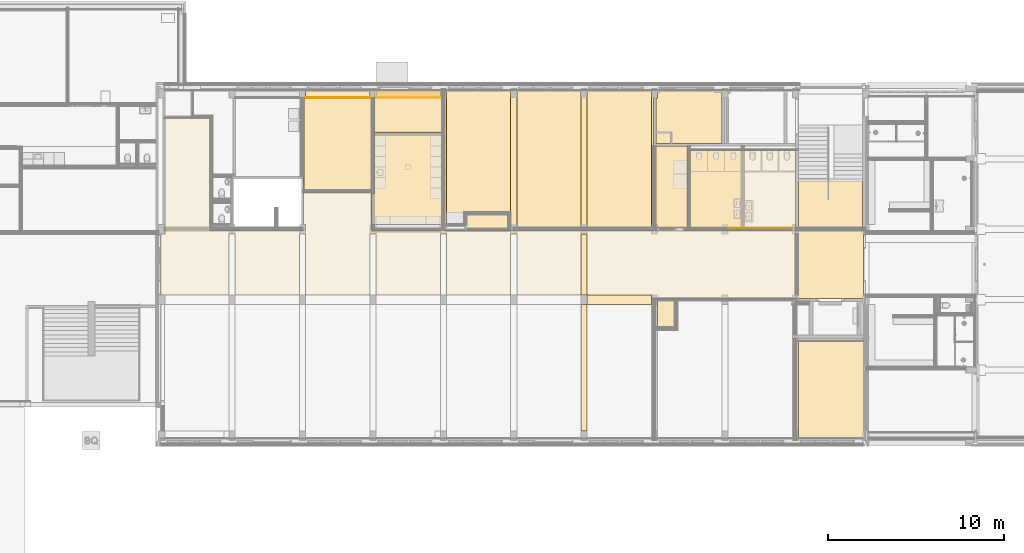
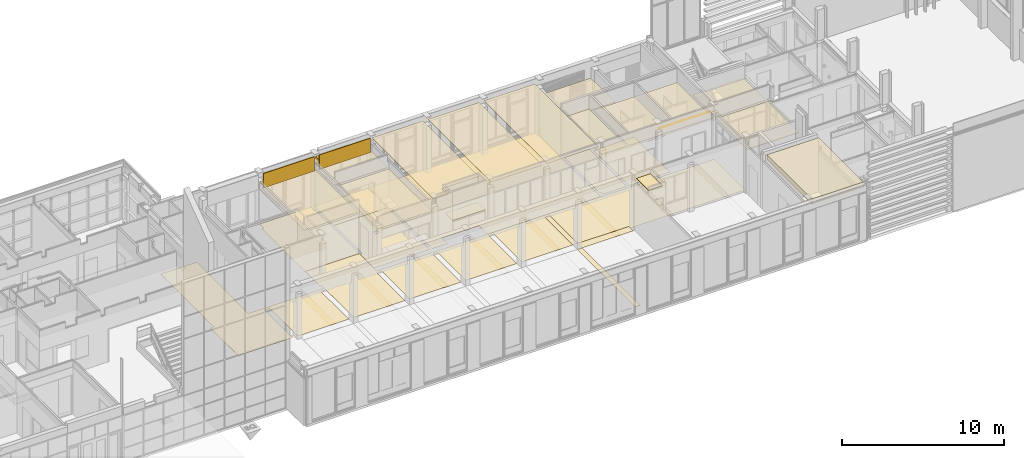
# One storey, part 88 of 109: 29 coverings, 1 opening.
"""IFC2X3 building model written with IfcOpenShell, lengths in millimetres."""

from ifc_helpers import new_model, entity, si_unit, converted_unit, derived_unit, money_unit, direction, frame, origin_with_axes, place, context, subcontext, project, spatial, faceted_brep, material, type_object, element, save


model = new_model("IFC2X3")

# Units and contexts
model_context = context("Model", 3, precision=0.01, world=origin_with_axes(), true_north=direction((0.0, 1.0)))
body_context = subcontext(model_context, "Body", "Model", "MODEL_VIEW")
ifc_project = project(units=[si_unit("LENGTHUNIT", "METRE", prefix="MILLI"), si_unit("AREAUNIT", "SQUARE_METRE"), si_unit("VOLUMEUNIT", "CUBIC_METRE"), converted_unit("PLANEANGLEUNIT", "DEGREE", entity("IfcPlaneAngleMeasure", 0.0174532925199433), si_unit("PLANEANGLEUNIT", "RADIAN"), dimensions=[0, 0, 0, 0, 0, 0, 0]), money_unit("EUR"), converted_unit("TIMEUNIT", "Year", entity("IfcTimeMeasure", 31557600.0), si_unit("TIMEUNIT", "SECOND"), dimensions=[0, 0, 1, 0, 0, 0, 0]), si_unit("MASSUNIT", "GRAM", prefix="KILO"), si_unit("THERMODYNAMICTEMPERATUREUNIT", "DEGREE_CELSIUS"), si_unit("LUMINOUSINTENSITYUNIT", "LUMEN"), si_unit("ENERGYUNIT", "JOULE", prefix="MEGA"), derived_unit("THERMALCONDUCTANCEUNIT", [(si_unit("POWERUNIT", "WATT"), 1), (si_unit("LENGTHUNIT", "METRE"), -1), (si_unit("THERMODYNAMICTEMPERATUREUNIT", "KELVIN"), -1)]), derived_unit("SPECIFICHEATCAPACITYUNIT", [(si_unit("ENERGYUNIT", "JOULE"), 1), (si_unit("MASSUNIT", "GRAM", prefix="KILO"), -1), (si_unit("THERMODYNAMICTEMPERATUREUNIT", "KELVIN"), -1)]), derived_unit("MASSDENSITYUNIT", [(si_unit("MASSUNIT", "GRAM", prefix="KILO"), 1), (si_unit("VOLUMEUNIT", "CUBIC_METRE"), -1)])], contexts=[model_context])

# Site, building, storey
site_placement = place(None, origin_with_axes())
site = spatial("IfcSite", under=ifc_project, at=site_placement, Name="<site naam>", CompositionType="ELEMENT")
building_placement = place(site_placement, origin_with_axes())
building = spatial("IfcBuilding", under=site, at=building_placement, Name="<Naam gebouw>", CompositionType="ELEMENT")
storey_placement = place(building_placement, origin_with_axes())
storey = spatial("IfcBuildingStorey", under=building, at=storey_placement, Name="00 Begane grond", CompositionType="ELEMENT", Elevation=0.0)

# Covering
ifc_material_1 = material(Name="Gietvloer type 02a")
covering_type_1 = type_object("IfcCoveringType", Name="VA-02a 3", PredefinedType="CEILING")
covering_1_placement = place(storey_placement, frame((42025.00000000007, 16474.94979658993, 0.0), z_axis=(0.0, 0.0, 1.0), x_axis=(1.0, 0.0, 0.0)))
element("IfcCovering", 1, at=covering_1_placement, inside=storey, type_object=covering_type_1, material=ifc_material_1, Name="43_Vloer_VA-02a", PredefinedType="CEILING", context=body_context, shape_type="Brep", body=[
    faceted_brep([(0.0, 0.0, 3.0), (0.0, 0.0, 0.0), (0.0, -4399.287086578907, 0.0), (0.0, -4399.287086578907, 3.0), (2920.000048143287, 0.0, 3.0), (2920.000048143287, 0.0, 0.0), (2920.000048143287, -4399.287086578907, 0.0), (2920.000048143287, -4399.287086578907, 3.0)], [[[0, 1, 2, 3]], [[4, 5, 1, 0]], [[2, 1, 5, 6]], [[3, 2, 6, 7]], [[4, 0, 3, 7]], [[7, 6, 5, 4]]]),
])

# Covering, opening
ifc_material_2 = material(Name="Gietvloer HACCP type 09")
covering_type_2 = type_object("IfcCoveringType", Name="VA-09 3", PredefinedType="CEILING")
covering_2_placement = place(storey_placement, frame((24075.00000000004, 19883.99999999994, 0.0), z_axis=(0.0, 0.0, 1.0), x_axis=(1.0, 0.0, 0.0)))
covering_2 = element("IfcCovering", 2, at=covering_2_placement, inside=storey, type_object=covering_type_2, material=ifc_material_2, Name="43_Vloer_VA-09", PredefinedType="CEILING", context=body_context, shape_type="Brep", body=[
    faceted_brep([(0.0, 0.0, 3.0), (0.0, 0.0, 0.0), (0.0, -5855.163192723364, 0.0), (0.0, -5855.163192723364, 3.0), (3849.999971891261, 0.0, 3.0), (3849.999971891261, 0.0, 0.0), (3850.00008665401, -7608.999999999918, 0.0), (-150.0000338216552, -7608.999999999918, 0.0), (-149.9999895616, -5855.163188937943, 0.0), (-149.9999895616, -5855.163188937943, 3.0), (-150.0000338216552, -7608.999999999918, 3.0), (3850.00008665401, -7608.999999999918, 3.0)], [[[0, 1, 2, 3]], [[4, 5, 1, 0]], [[2, 1, 5, 6, 7, 8]], [[3, 2, 8, 9]], [[4, 0, 3, 9, 10, 11]], [[11, 6, 5, 4]], [[10, 7, 6, 11]], [[9, 8, 7, 10]]]),
])
opening_placement = place(covering_2_placement, frame((-24075.00000000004, -19883.99999999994, 0.0), z_axis=(0.0, 0.0, 1.0), x_axis=(1.0, 0.0, 0.0)))
element("IfcOpeningElement", 3, at=opening_placement, cuts=covering_2, Name="43_Opening_", context=body_context, shape_type="Brep", body=[
    faceted_brep([(25843.59936336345, 15404.00000000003, -3.0), (26093.59936336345, 15404.00000000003, -3.0), (26093.59936336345, 15404.00000000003, 6.0), (25843.59936336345, 15404.00000000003, 6.0), (25843.59936336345, 15654.00000000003, -3.0), (26093.59936336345, 15654.00000000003, -3.0), (26093.59936336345, 15654.00000000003, 6.0), (25843.59936336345, 15654.00000000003, 6.0)], [[[0, 1, 2, 3]], [[0, 4, 5, 1]], [[1, 5, 6, 2]], [[3, 2, 6, 7]], [[4, 0, 3, 7]], [[5, 4, 7, 6]]]),
])

# Coverings
ifc_material_3 = material(Name="systeemplafond 600*600 kleur wit")
covering_type_3 = type_object("IfcCoveringType", Name="PA-01a 40", PredefinedType="CEILING")
covering_3_placement = place(storey_placement, frame((41159.00007376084, 7925.000028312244, 3700.0), z_axis=(0.0, 0.0, 1.0), x_axis=(1.0, 0.0, 0.0)))
element("IfcCovering", 4, at=covering_3_placement, inside=storey, type_object=covering_type_3, material=ifc_material_3, Name="45_Vloer_PA-01a", PredefinedType="CEILING", context=body_context, shape_type="Brep", body=[
    faceted_brep([(0.0, 0.0, 40.00000000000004), (0.0, 0.0, 0.0), (-984.0000737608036, 0.0, 0.0), (-984.0000737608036, 0.0, 40.00000000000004), (0.0, -1499.999991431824, 40.00000000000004), (0.0, -1499.999991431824, 0.0), (-984.0000737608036, -1499.999991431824, 0.0), (-984.0000737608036, -1499.999991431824, 40.00000000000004)], [[[0, 1, 2, 3]], [[4, 5, 1, 0]], [[2, 1, 5, 6]], [[3, 2, 6, 7]], [[4, 0, 3, 7]], [[7, 6, 5, 4]]]),
])
covering_4_placement = place(storey_placement, frame((28175.00000000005, 12274.99990347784, 3700.0), z_axis=(0.0, 0.0, 1.0), x_axis=(1.0, 0.0, 0.0)))
element("IfcCovering", 5, at=covering_4_placement, inside=storey, type_object=covering_type_3, material=ifc_material_3, Name="45_Vloer_PA-01a", PredefinedType="CEILING", context=body_context, shape_type="Brep", body=[
    faceted_brep([(0.0, 0.0, 40.00000000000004), (0.0, 0.0, 0.0), (999.3820344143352, 0.0, 0.0), (999.3820344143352, 0.0, 40.00000000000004), (0.0, 7609.000157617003, 40.00000000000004), (0.0, 7609.000157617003, 0.0), (3650.000002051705, 7609.000157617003, 0.0), (3649.999865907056, 694.2497503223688, 0.0), (999.3820344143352, 694.2497503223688, 0.0), (999.3820344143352, 694.2497503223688, 40.00000000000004), (3649.999865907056, 694.2497503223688, 40.00000000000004), (3650.000002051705, 7609.000157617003, 40.00000000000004)], [[[0, 1, 2, 3]], [[4, 5, 1, 0]], [[2, 1, 5, 6, 7, 8]], [[3, 2, 8, 9]], [[4, 0, 3, 9, 10, 11]], [[11, 6, 5, 4]], [[10, 7, 6, 11]], [[9, 8, 7, 10]]]),
])
covering_5_placement = place(storey_placement, frame((41875.00000000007, 16724.94983443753, 3000.0), z_axis=(0.0, 0.0, 1.0), x_axis=(1.0, 0.0, 0.0)))
element("IfcCovering", 6, at=covering_5_placement, inside=storey, type_object=covering_type_3, material=ifc_material_3, Name="45_Vloer_PA-01a", PredefinedType="CEILING", context=body_context, shape_type="Brep", body=[
    faceted_brep([(0.0, 0.0, 40.00000000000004), (0.0, 0.0, 0.0), (-1800.000000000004, 0.0, 0.0), (-1800.000000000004, 0.0, 40.00000000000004), (0.0, -4651.124501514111, 40.00000000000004), (0.0, -4651.124501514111, 0.0), (-1800.000000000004, -4651.124501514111, 0.0), (-1800.000000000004, -4651.124501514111, 40.00000000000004)], [[[0, 1, 2, 3]], [[4, 5, 1, 0]], [[2, 1, 5, 6]], [[3, 2, 6, 7]], [[4, 0, 3, 7]], [[7, 6, 5, 4]]]),
])
covering_6_placement = place(storey_placement, frame((20074.99989378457, 14153.80360676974, 3000.0), z_axis=(0.0, 0.0, 1.0), x_axis=(1.0, 0.0, 0.0)))
element("IfcCovering", 7, at=covering_6_placement, inside=storey, type_object=covering_type_3, material=ifc_material_3, Name="45_Vloer_PA-01a", PredefinedType="CEILING", context=body_context, shape_type="Brep", body=[
    faceted_brep([(0.0, 5296.196393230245, 40.00000000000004), (0.0, 62.5, 40.00000000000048), (3850.000097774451, 62.5, 40.00000000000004), (3850.000097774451, 5296.196393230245, 40.00000000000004), (0.0, 5296.196393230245, 0.0), (0.0, 62.5, 0.0), (3850.000097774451, 62.5, 0.0), (3850.000097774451, 5296.196393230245, 0.0)], [[[0, 1, 2, 3]], [[4, 5, 1, 0]], [[5, 6, 2, 1]], [[3, 2, 6, 7]], [[0, 3, 7, 4]], [[7, 6, 5, 4]]]),
])
covering_7_placement = place(storey_placement, frame((24075.00000000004, 17487.83062488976, 3000.0), z_axis=(0.0, 0.0, 1.0), x_axis=(1.0, 0.0, 0.0)))
element("IfcCovering", 8, at=covering_7_placement, inside=storey, type_object=covering_type_3, material=ifc_material_3, Name="45_Vloer_PA-01a", PredefinedType="CEILING", context=body_context, shape_type="Brep", body=[
    faceted_brep([(0.0, 0.0, 40.00000000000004), (0.0, 0.0, 0.0), (3850.000000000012, 0.0, 0.0), (3850.000000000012, 0.0, 40.00000000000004), (0.0, 1962.169375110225, 40.00000000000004), (0.0, 1962.169375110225, 0.0), (3850.000000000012, 1962.169375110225, 0.0), (3850.000000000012, 1962.169375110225, 40.00000000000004)], [[[0, 1, 2, 3]], [[4, 5, 1, 0]], [[2, 1, 5, 6]], [[3, 2, 6, 7]], [[4, 0, 3, 7]], [[7, 6, 5, 4]]]),
])
covering_8_placement = place(storey_placement, frame((27924.99996662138, 17337.83062488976, 3000.0), z_axis=(0.0, 0.0, 1.0), x_axis=(1.0, 0.0, 0.0)))
element("IfcCovering", 9, at=covering_8_placement, inside=storey, type_object=covering_type_3, material=ifc_material_3, Name="45_Vloer_PA-01a", PredefinedType="CEILING", context=body_context, shape_type="Brep", body=[
    faceted_brep([(0.0, 0.0, 40.00000000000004), (0.0, 0.0, 0.0), (-3849.999966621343, 0.0, 0.0), (-3849.999966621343, 0.0, 40.00000000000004), (0.0, -5292.223746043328, 40.00000000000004), (0.0, -5292.223746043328, 0.0), (-3849.999966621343, -5292.223746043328, 0.0), (-3849.999966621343, -5292.223746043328, 40.00000000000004)], [[[0, 1, 2, 3]], [[4, 5, 1, 0]], [[2, 1, 5, 6]], [[3, 2, 6, 7]], [[4, 0, 3, 7]], [[7, 6, 5, 4]]]),
])
covering_9_placement = place(storey_placement, frame((42025.00000000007, 16474.9498088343, 3000.0), z_axis=(0.0, 0.0, 1.0), x_axis=(1.0, 0.0, 0.0)))
element("IfcCovering", 10, at=covering_9_placement, inside=storey, type_object=covering_type_3, material=ifc_material_3, Name="45_Vloer_PA-01a", PredefinedType="CEILING", context=body_context, shape_type="Brep", body=[
    faceted_brep([(0.0, 0.0, 40.00000000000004), (0.0, 0.0, 0.0), (0.0, -4401.124475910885, 0.0), (0.0, -4401.124475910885, 40.00000000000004), (5990.000013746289, 0.0, 40.00000000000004), (5990.000013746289, 0.0, 0.0), (5990.000013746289, -4401.124475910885, 0.0), (5990.000013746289, -4401.124475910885, 40.00000000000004)], [[[0, 1, 2, 3]], [[4, 5, 1, 0]], [[2, 1, 5, 6]], [[3, 2, 6, 7]], [[4, 0, 3, 7]], [[7, 6, 5, 4]]]),
])
covering_10_placement = place(storey_placement, frame((44175.0000550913, 12074.84649416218, 3560.0), z_axis=(0.0, 0.0, 1.0), x_axis=(1.0, 0.0, 0.0)))
element("IfcCovering", 11, at=covering_10_placement, inside=storey, type_object=covering_type_3, material=ifc_material_3, Name="45_Vloer_PA-01a", PredefinedType="CEILING", context=body_context, shape_type="Brep", body=[
    faceted_brep([(0.0, 0.0, 40.00000000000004), (0.0, 0.0, 0.0), (0.0, -1.261897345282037, 0.0), (0.0, -1.261897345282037, 40.00000000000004), (3650.000012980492, 0.0, 40.00000000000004), (3650.000012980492, 0.0, 0.0), (3650.000012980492, -1.261897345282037, 0.0), (3650.000012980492, -1.261897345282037, 40.00000000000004)], [[[0, 1, 2, 3]], [[4, 5, 1, 0]], [[2, 1, 5, 6]], [[3, 2, 6, 7]], [[4, 0, 3, 7]], [[7, 6, 5, 4]]]),
])
covering_11_placement = place(storey_placement, frame((32174.99998807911, 12074.96401899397, 3700.0), z_axis=(0.0, 0.0, 1.0), x_axis=(1.0, 0.0, 0.0)))
element("IfcCovering", 12, at=covering_11_placement, inside=storey, type_object=covering_type_3, material=ifc_material_3, Name="45_Vloer_PA-01a", PredefinedType="CEILING", context=body_context, shape_type="Brep", body=[
    faceted_brep([(0.0, 0.0, 40.00000000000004), (0.0, 0.0, 0.0), (3649.999961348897, 0.0, 0.0), (3649.999961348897, 0.0, 40.00000000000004), (0.0, 7809.036042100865, 40.00000000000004), (0.0, 7809.036042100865, 0.0), (3649.999961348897, 7809.036042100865, 0.0), (3649.999961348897, 7809.036042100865, 40.00000000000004)], [[[0, 1, 2, 3]], [[4, 5, 1, 0]], [[2, 1, 5, 6]], [[3, 2, 6, 7]], [[4, 0, 3, 7]], [[7, 6, 5, 4]]]),
])
covering_12_placement = place(storey_placement, frame((36174.99995571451, 12074.96401899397, 3700.0), z_axis=(0.0, 0.0, 1.0), x_axis=(1.0, 0.0, 0.0)))
element("IfcCovering", 13, at=covering_12_placement, inside=storey, type_object=covering_type_3, material=ifc_material_3, Name="45_Vloer_PA-01a", PredefinedType="CEILING", context=body_context, shape_type="Brep", body=[
    faceted_brep([(3649.861847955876, 0.0, 40.00000000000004), (0.0, 0.0, 40.00000000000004), (0.0, 0.0, 0.0), (3649.861847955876, 0.0, 0.0), (3650.000082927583, 7809.036042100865, 40.00000000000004), (0.0, 7809.036042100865, 40.00000000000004), (3649.861847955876, -8.50126839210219, 40.00000000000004), (3650.000082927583, -8.50126839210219, 40.00000000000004), (0.0, 7809.036042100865, 0.0), (3649.861847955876, -8.50126839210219, 0.0), (3650.000082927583, 7809.036042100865, 0.0), (3650.000082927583, -8.50126839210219, 0.0)], [[[0, 1, 2, 3]], [[4, 5, 1, 0, 6, 7]], [[1, 5, 8, 2]], [[9, 3, 2, 8, 10, 11]], [[6, 0, 3, 9]], [[5, 4, 10, 8]], [[7, 6, 9, 11]], [[4, 7, 11, 10]]]),
])
ifc_material_4 = material(Name="systeemplafond 600*600")
covering_type_4 = type_object("IfcCoveringType", Name="PA-01c 40", PredefinedType="CEILING")
covering_13_placement = place(storey_placement, frame((48175.00005065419, 12075.00000002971, 3000.0), z_axis=(0.0, 0.0, 1.0), x_axis=(1.0, 0.0, 0.0)))
element("IfcCovering", 14, at=covering_13_placement, inside=storey, type_object=covering_type_4, material=ifc_material_4, Name="45_Vloer_PA-01c", PredefinedType="CEILING", context=body_context, shape_type="Brep", body=[
    faceted_brep([(0.0, 0.0, 40.00000000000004), (0.0, 0.0, 0.0), (3649.99994934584, 0.0, 0.0), (3649.99994934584, 0.0, 40.00000000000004), (0.0, 2774.999999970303, 40.00000000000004), (0.0, 2774.999999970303, 0.0), (3649.99994934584, 2774.999999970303, 0.0), (3649.99994934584, 2774.999999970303, 40.00000000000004)], [[[0, 1, 2, 3]], [[4, 5, 1, 0]], [[2, 1, 5, 6]], [[3, 2, 6, 7]], [[4, 0, 3, 7]], [[7, 6, 5, 4]]]),
])
covering_14_placement = place(storey_placement, frame((51865.00000000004, 11925.00000002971, 3000.0), z_axis=(0.0, 0.0, 1.0), x_axis=(1.0, 0.0, 0.0)))
element("IfcCovering", 15, at=covering_14_placement, inside=storey, type_object=covering_type_4, material=ifc_material_4, Name="45_Vloer_PA-01c", PredefinedType="CEILING", context=body_context, shape_type="Brep", body=[
    faceted_brep([(0.0, 0.0, 40.00000000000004), (0.0, 0.0, 0.0), (-3715.00000000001, 0.0, 0.0), (-3715.00000000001, 0.0, 40.00000000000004), (0.0, -3870.000001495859, 40.00000000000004), (0.0, -3870.000001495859, 0.0), (-3715.00000000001, -3870.000001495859, 0.0), (-3715.00000000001, -3870.000001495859, 40.00000000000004)], [[[0, 1, 2, 3]], [[4, 5, 1, 0]], [[2, 1, 5, 6]], [[3, 2, 6, 7]], [[4, 0, 3, 7]], [[7, 6, 5, 4]]]),
])
ifc_material_5 = material(Name="Vinyl type 01b")
covering_type_5 = type_object("IfcCoveringType", Name="VA-01b 3", PredefinedType="CEILING")
covering_15_placement = place(storey_placement, frame((11935.00003775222, 8275.000000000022, 0.0), z_axis=(0.0, 0.0, 1.0), x_axis=(1.0, 0.0, 0.0)))
element("IfcCovering", 16, at=covering_15_placement, inside=storey, type_object=covering_type_5, material=ifc_material_5, Name="43_Vloer_VA-01b", PredefinedType="CEILING", context=body_context, shape_type="Brep", body=[
    faceted_brep([(0.0, 0.0, 3.0), (0.0, 0.0, 0.0), (3889.999962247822, 0.0, 0.0), (3889.999962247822, 0.0, 3.0), (0.0, 3450.000000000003, 3.0), (0.0, 3450.000000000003, 0.0), (239.9999622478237, 3450.000000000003, 0.0), (239.9999622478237, 10035.59602261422, 0.0), (2819.954968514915, 10035.59602261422, 0.0), (2819.954968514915, 3649.999818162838, 0.0), (8240.000031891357, 3650.000020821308, 0.0), (8240.000031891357, 3999.999824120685, 0.0), (8114.875055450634, 3999.999824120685, 0.0), (8114.875055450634, 5803.803756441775, 0.0), (11990.00012512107, 5803.803756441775, 0.0), (11990.00012512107, 3655.520557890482, 0.0), (19889.99994566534, 3655.520557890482, 0.0), (19889.99994566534, 3649.99999919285, 0.0), (36100.99996224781, 3649.99999919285, 0.0), (36100.99996224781, -199.9999999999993, 0.0), (27889.99996224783, -199.9999999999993, 0.0), (27889.99996224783, 0.0, 0.0), (24239.99996224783, 0.0, 0.0), (24239.99996224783, 3449.999999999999, 0.0), (23889.99996224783, 3449.999999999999, 0.0), (23889.99996224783, 0.0, 0.0), (20239.99996224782, 0.0, 0.0), (20239.99996224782, 3449.999999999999, 0.0), (19889.99996224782, 3449.999999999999, 0.0), (19889.99996224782, 0.0, 0.0), (16239.99996224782, 0.0, 0.0), (16239.99996224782, 3449.999999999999, 0.0), (15889.99996224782, 3449.999999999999, 0.0), (15889.99996224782, 0.0, 0.0), (12239.99996224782, 0.0, 0.0), (12239.99996224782, 3450.000000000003, 0.0), (11889.99996224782, 3450.000000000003, 0.0), (11889.99996224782, 0.0, 0.0), (8239.999962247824, 0.0, 0.0), (8239.999962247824, 3450.000000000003, 0.0), (7889.999962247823, 3450.000000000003, 0.0), (7889.999962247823, 0.0, 0.0), (4239.999962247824, 0.0, 0.0), (4239.999962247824, 3450.000000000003, 0.0), (3889.999962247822, 3450.000000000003, 0.0), (3889.999962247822, 3450.000000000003, 3.0), (4239.999962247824, 3450.000000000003, 3.0), (4239.999962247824, 0.0, 3.0), (7889.999962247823, 0.0, 3.0), (7889.999962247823, 3450.000000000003, 3.0), (8239.999962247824, 3450.000000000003, 3.0), (8239.999962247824, 0.0, 3.0), (11889.99996224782, 0.0, 3.0), (11889.99996224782, 3450.000000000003, 3.0), (12239.99996224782, 3450.000000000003, 3.0), (12239.99996224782, 0.0, 3.0), (15889.99996224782, 0.0, 3.0), (15889.99996224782, 3449.999999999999, 3.0), (16239.99996224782, 3449.999999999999, 3.0), (16239.99996224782, 0.0, 3.0), (19889.99996224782, 0.0, 3.0), (19889.99996224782, 3449.999999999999, 3.0), (20239.99996224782, 3449.999999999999, 3.0), (20239.99996224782, 0.0, 3.0), (23889.99996224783, 0.0, 3.0), (23889.99996224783, 3449.999999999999, 3.0), (24239.99996224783, 3449.999999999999, 3.0), (24239.99996224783, 0.0, 3.0), (27889.99996224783, 0.0, 3.0), (27889.99996224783, -199.9999999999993, 3.0), (36100.99996224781, -199.9999999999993, 3.0), (36100.99996224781, 3649.99999919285, 3.0), (19889.99994566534, 3649.99999919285, 3.0), (19889.99994566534, 3655.520557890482, 3.0), (11990.00012512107, 3655.520557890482, 3.0), (11990.00012512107, 5803.803756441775, 3.0), (8114.875055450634, 5803.803756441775, 3.0), (8114.875055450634, 3999.999824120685, 3.0), (8240.000031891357, 3999.999824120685, 3.0), (8240.000031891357, 3650.000020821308, 3.0), (2819.954968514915, 3649.999818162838, 3.0), (2819.954968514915, 10035.59602261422, 3.0), (239.9999622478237, 10035.59602261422, 3.0), (239.9999622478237, 3450.000000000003, 3.0)], [[[0, 1, 2, 3]], [[4, 5, 1, 0]], [[2, 1, 5, 6, 7, 8, 9, 10, 11, 12, 13, 14, 15, 16, 17, 18, 19, 20, 21, 22, 23, 24, 25, 26, 27, 28, 29, 30, 31, 32, 33, 34, 35, 36, 37, 38, 39, 40, 41, 42, 43, 44]], [[3, 2, 44, 45]], [[4, 0, 3, 45, 46, 47, 48, 49, 50, 51, 52, 53, 54, 55, 56, 57, 58, 59, 60, 61, 62, 63, 64, 65, 66, 67, 68, 69, 70, 71, 72, 73, 74, 75, 76, 77, 78, 79, 80, 81, 82, 83]], [[83, 6, 5, 4]], [[82, 7, 6, 83]], [[81, 8, 7, 82]], [[80, 9, 8, 81]], [[79, 10, 9, 80]], [[78, 11, 10, 79]], [[77, 12, 11, 78]], [[76, 13, 12, 77]], [[75, 14, 13, 76]], [[74, 15, 14, 75]], [[73, 16, 15, 74]], [[72, 17, 16, 73]], [[71, 18, 17, 72]], [[70, 19, 18, 71]], [[69, 20, 19, 70]], [[68, 21, 20, 69]], [[67, 22, 21, 68]], [[66, 23, 22, 67]], [[65, 24, 23, 66]], [[64, 25, 24, 65]], [[63, 26, 25, 64]], [[62, 27, 26, 63]], [[61, 28, 27, 62]], [[60, 29, 28, 61]], [[59, 30, 29, 60]], [[58, 31, 30, 59]], [[57, 32, 31, 58]], [[56, 33, 32, 57]], [[55, 34, 33, 56]], [[54, 35, 34, 55]], [[53, 36, 35, 54]], [[52, 37, 36, 53]], [[51, 38, 37, 52]], [[50, 39, 38, 51]], [[49, 40, 39, 50]], [[48, 41, 40, 49]], [[47, 42, 41, 48]], [[46, 43, 42, 47]], [[45, 44, 43, 46]]]),
])
ifc_material_6 = material(Name="Vinyl type 01e (1)")
covering_type_6 = type_object("IfcCoveringType", Name="VA-01e 3", PredefinedType="CEILING")
covering_16_placement = place(storey_placement, frame((39925.00000000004, 19924.99988924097, 0.0), z_axis=(0.0, 0.0, 1.0), x_axis=(1.0, 0.0, 0.0)))
element("IfcCovering", 17, at=covering_16_placement, inside=storey, type_object=covering_type_6, material=ifc_material_6, Name="43_Vloer_VA-01e", PredefinedType="CEILING", context=body_context, shape_type="Brep", body=[
    faceted_brep([(0.0, 0.0, 3.0), (0.0, 0.0, 0.0), (-11849.99984499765, 0.0, 0.0), (-11849.99984499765, 0.0, 3.0), (0.0, -8000.035743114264, 3.0), (0.0, -8000.035743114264, 0.0), (-8100.000075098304, -8000.035743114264, 0.0), (-8100.000075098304, -7649.999982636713, 0.0), (-8100.617571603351, -7649.999982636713, 0.0), (-8100.617571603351, -6955.750268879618, 0.0), (-10750.13120952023, -6955.750268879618, 0.0), (-10750.13120952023, -7649.999982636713, 0.0), (-11849.99984499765, -7649.999982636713, 0.0), (-11849.99984499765, -7649.999982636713, 3.0), (-10750.13120952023, -7649.999982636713, 3.0), (-10750.13120952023, -6955.750268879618, 3.0), (-8100.617571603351, -6955.750268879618, 3.0), (-8100.617571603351, -7649.999982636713, 3.0), (-8100.000075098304, -7649.999982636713, 3.0), (-8100.000075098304, -8000.035743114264, 3.0)], [[[0, 1, 2, 3]], [[4, 5, 1, 0]], [[2, 1, 5, 6, 7, 8, 9, 10, 11, 12]], [[3, 2, 12, 13]], [[4, 0, 3, 13, 14, 15, 16, 17, 18, 19]], [[19, 6, 5, 4]], [[18, 7, 6, 19]], [[17, 8, 7, 18]], [[16, 9, 8, 17]], [[15, 10, 9, 16]], [[14, 11, 10, 15]], [[13, 12, 11, 14]]]),
])
covering_17_placement = place(storey_placement, frame((27925.00006879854, 19924.99995940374, 0.0), z_axis=(0.0, 0.0, 1.0), x_axis=(1.0, 0.0, 0.0)))
element("IfcCovering", 18, at=covering_17_placement, inside=storey, type_object=covering_type_6, material=ifc_material_6, Name="43_Vloer_VA-01e", PredefinedType="CEILING", context=body_context, shape_type="Brep", body=[
    faceted_brep([(0.0, 0.0, 3.0), (0.0, 0.0, 0.0), (-3850.000125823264, 0.0, 0.0), (-3850.000125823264, 0.0, 3.0), (-5.960470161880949e-05, -2437.16935503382, 3.0), (-5.960470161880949e-05, -2437.16935503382, 0.0), (-3850.000125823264, -2437.16935503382, 0.0), (-3850.000125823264, -2437.16935503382, 3.0)], [[[0, 1, 2, 3]], [[4, 5, 1, 0]], [[2, 1, 5, 6]], [[3, 2, 6, 7]], [[4, 0, 3, 7]], [[7, 6, 5, 4]]]),
])
ifc_material_7 = material(Name="Vinyl type 01a")
covering_type_7 = type_object("IfcCoveringType", Name="VA-01a 3", PredefinedType="CEILING")
covering_18_placement = place(storey_placement, frame((20049.88968577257, 14078.67540178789, 0.0), z_axis=(0.0, 0.0, 1.0), x_axis=(1.0, 0.0, 0.0)))
element("IfcCovering", 19, at=covering_18_placement, inside=storey, type_object=covering_type_7, material=ifc_material_7, Name="43_Vloer_VA-01a", PredefinedType="CEILING", context=body_context, shape_type="Brep", body=[
    faceted_brep([(0.0, 0.0, 3.0), (0.0, 0.0, 0.0), (3875.110207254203, 0.0, 0.0), (3875.110207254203, 0.0, 3.0), (0.0, 5371.324651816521, 3.0), (0.0, 5371.324651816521, 0.0), (125.1104644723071, 5371.324651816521, 0.0), (125.1104644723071, 5846.324527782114, 0.0), (3775.110405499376, 5846.324527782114, 0.0), (3775.110405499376, 5371.324651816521, 0.0), (3875.110207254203, 5371.324651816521, 0.0), (3875.110207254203, 5371.324651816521, 3.0), (3775.110405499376, 5371.324651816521, 3.0), (3775.110405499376, 5846.324527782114, 3.0), (125.1104644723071, 5846.324527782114, 3.0), (125.1104644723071, 5371.324651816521, 3.0)], [[[0, 1, 2, 3]], [[4, 5, 1, 0]], [[2, 1, 5, 6, 7, 8, 9, 10]], [[3, 2, 10, 11]], [[4, 0, 3, 11, 12, 13, 14, 15]], [[15, 6, 5, 4]], [[14, 7, 6, 15]], [[13, 8, 7, 14]], [[12, 9, 8, 13]], [[11, 10, 9, 12]]]),
])
covering_19_placement = place(storey_placement, frame((41875.00000000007, 16724.9498245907, 0.0), z_axis=(0.0, 0.0, 1.0), x_axis=(1.0, 0.0, 0.0)))
element("IfcCovering", 20, at=covering_19_placement, inside=storey, type_object=covering_type_7, material=ifc_material_7, Name="43_Vloer_VA-01a", PredefinedType="CEILING", context=body_context, shape_type="Brep", body=[
    faceted_brep([(0.0, 0.0, 3.0), (0.0, 0.0, 0.0), (-1800.000000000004, 0.0, 0.0), (-1800.000000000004, 0.0, 3.0), (0.0, -4651.600896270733, 3.0), (0.0, -4651.600896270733, 0.0), (-1700.000000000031, -4651.600896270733, 0.0), (-1700.000000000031, -4449.949824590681, 0.0), (-1800.000000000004, -4449.949824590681, 0.0), (-1800.000000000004, -4449.949824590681, 3.0), (-1700.000000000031, -4449.949824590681, 3.0), (-1700.000000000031, -4651.600896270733, 3.0)], [[[0, 1, 2, 3]], [[4, 5, 1, 0]], [[2, 1, 5, 6, 7, 8]], [[3, 2, 8, 9]], [[4, 0, 3, 9, 10, 11]], [[11, 6, 5, 4]], [[10, 7, 6, 11]], [[9, 8, 7, 10]]]),
])
ifc_material_8 = material(Name="verlaagd gipsvezelplaat plafond brandwerend")
covering_type_8 = type_object("IfcCoveringType", Name="PA-09 40", PredefinedType="CEILING")
covering_20_placement = place(storey_placement, frame((40175.00001292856, 19449.99997645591, 2729.999960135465), z_axis=(0.0, 0.0, 1.0), x_axis=(1.0, 0.0, 0.0)))
element("IfcCovering", 21, at=covering_20_placement, inside=storey, type_object=covering_type_8, material=ifc_material_8, Name="45_Vloer_PA-09", PredefinedType="CEILING", context=body_context, shape_type="Brep", body=[
    faceted_brep([(3649.999987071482, -2575.050129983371, 0.0), (3649.999987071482, 440.5000235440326, 0.0), (3649.999987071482, 440.5000235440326, 40.00000000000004), (3649.999987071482, -2575.050129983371, 40.00000000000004), (0.0, 0.0, 0.0), (0.0, 440.5000235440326, 0.0), (-100.0000158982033, -2575.050129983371, 0.0), (-100.0000158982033, 0.0, 0.0), (0.0, 440.5000235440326, 40.00000000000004), (0.0, 0.0, 40.00000000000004), (-100.0000158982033, 0.0, 40.00000000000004), (-100.0000158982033, -2575.050129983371, 40.00000000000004)], [[[0, 1, 2, 3]], [[4, 5, 1, 0, 6, 7]], [[5, 8, 2, 1]], [[3, 2, 8, 9, 10, 11]], [[3, 11, 6, 0]], [[9, 8, 5, 4]], [[11, 10, 7, 6]], [[10, 9, 4, 7]]]),
])
ifc_material_9 = material(Name="koven gips")
covering_type_9 = type_object("IfcCoveringType", Name="koven gips 40", PredefinedType="CEILING")
covering_21_placement = place(storey_placement, frame((31674.38242510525, 12819.24969002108, 1900.0), z_axis=(0.0, 0.0, 1.0), x_axis=(1.0, 0.0, 0.0)))
element("IfcCovering", 22, at=covering_21_placement, inside=storey, type_object=covering_type_9, material=ifc_material_9, Name="45_Vloer_koven", PredefinedType="CEILING", context=body_context, shape_type="Brep", body=[
    faceted_brep([(0.0, 0.0, 40.00000000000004), (0.0, 0.0, 0.0), (-2349.895289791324, 0.0, 0.0), (-2349.895289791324, 0.0, 40.00000000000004), (0.0, -929.5793248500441, 40.00000000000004), (0.0, -929.5793248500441, 0.0), (-2349.895289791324, -929.5793248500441, 0.0), (-2349.895289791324, -929.5793248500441, 40.00000000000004)], [[[0, 1, 2, 3]], [[4, 5, 1, 0]], [[2, 1, 5, 6]], [[3, 2, 6, 7]], [[4, 0, 3, 7]], [[7, 6, 5, 4]]]),
])
ifc_material_10 = material(Name="aftimmering/koven multiplex")
covering_type_10 = type_object("IfcCoveringType", Name="aftimmering/koven multiplex 565", PredefinedType="CEILING")
covering_22_placement = place(storey_placement, frame((24161.88445410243, 19884.00000921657, 3185.0), z_axis=(0.0, 0.0, 1.0), x_axis=(1.0, 0.0, 0.0)))
element("IfcCovering", 23, at=covering_22_placement, inside=storey, type_object=covering_type_10, material=ifc_material_10, Name="45_Vloer_aftimmering/koven", PredefinedType="CEILING", context=body_context, shape_type="Brep", body=[
    faceted_brep([(0.0, 0.0, 565.0), (0.0, 0.0, 0.0), (0.0, -433.9999806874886, 0.0), (0.0, -433.9999806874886, 565.0), (3663.115545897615, 0.0, 565.0), (3663.115545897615, 0.0, 0.0), (3663.115545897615, -433.9999806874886, 0.0), (3663.115545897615, -433.9999806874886, 565.0)], [[[0, 1, 2, 3]], [[4, 5, 1, 0]], [[2, 1, 5, 6]], [[3, 2, 6, 7]], [[4, 0, 3, 7]], [[7, 6, 5, 4]]]),
])
covering_type_11 = type_object("IfcCoveringType", Name="PA-08 40", PredefinedType="CEILING")
covering_23_placement = place(storey_placement, frame((23825.00000000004, 19883.99999999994, 3185.0), z_axis=(0.0, 0.0, 1.0), x_axis=(1.0, 0.0, 0.0)))
element("IfcCovering", 24, at=covering_23_placement, inside=storey, type_object=covering_type_11, material=ifc_material_10, Name="45_Vloer_PA-08", PredefinedType="CEILING", context=body_context, shape_type="Brep", body=[
    faceted_brep([(0.0, 0.0, 40.00000000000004), (0.0, 0.0, 0.0), (-3649.999999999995, 0.0, 0.0), (-3649.999999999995, 0.0, 40.00000000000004), (0.0, -433.9999999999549, 40.00000000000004), (0.0, -433.9999999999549, 0.0), (-3649.999999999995, -433.9999999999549, 0.0), (-3649.999999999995, -433.9999999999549, 40.00000000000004)], [[[0, 1, 2, 3]], [[4, 5, 1, 0]], [[2, 1, 5, 6]], [[3, 2, 6, 7]], [[4, 0, 3, 7]], [[7, 6, 5, 4]]]),
])
covering_type_12 = type_object("IfcCoveringType", Name="aftimmering/koven multiplex 1100", PredefinedType="CEILING")
covering_24_placement = place(storey_placement, frame((23825.00000000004, 19499.99999617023, 3000.0), z_axis=(0.0, 0.0, 1.0), x_axis=(1.0, 0.0, 0.0)))
element("IfcCovering", 25, at=covering_24_placement, inside=storey, type_object=covering_type_12, material=ifc_material_10, Name="45_Vloer_aftimmering/koven", PredefinedType="CEILING", context=body_context, shape_type="Brep", body=[
    faceted_brep([(0.0, 0.0, 1100.0), (0.0, 0.0, 0.0), (-3649.999999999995, 0.0, 0.0), (-3649.999999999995, 0.0, 1100.0), (0.0, -49.99999617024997, 1100.0), (0.0, -49.99999617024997, 0.0), (-3649.999999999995, -49.99999617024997, 0.0), (-3649.999999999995, -49.99999617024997, 1100.0)], [[[0, 1, 2, 3]], [[4, 5, 1, 0]], [[2, 1, 5, 6]], [[3, 2, 6, 7]], [[4, 0, 3, 7]], [[7, 6, 5, 4]]]),
])
covering_25_placement = place(storey_placement, frame((24175.00000000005, 19499.99997711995, 3000.0), z_axis=(0.0, 0.0, 1.0), x_axis=(1.0, 0.0, 0.0)))
element("IfcCovering", 26, at=covering_25_placement, inside=storey, type_object=covering_type_12, material=ifc_material_10, Name="45_Vloer_aftimmering/koven", PredefinedType="CEILING", context=body_context, shape_type="Brep", body=[
    faceted_brep([(0.0, 0.0, 1100.0), (0.0, 0.0, 0.0), (0.0, -49.99994338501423, 0.0), (0.0, -49.99994338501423, 1100.0), (3649.999999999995, 0.0, 1100.0), (3649.999999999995, 0.0, 0.0), (3649.999999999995, -49.99994338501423, 0.0), (3649.999999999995, -49.99994338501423, 1100.0)], [[[0, 1, 2, 3]], [[4, 5, 1, 0]], [[2, 1, 5, 6]], [[3, 2, 6, 7]], [[4, 0, 3, 7]], [[7, 6, 5, 4]]]),
])
ifc_material_11 = material(Name="gipsplafond met isolatie")
covering_type_13 = type_object("IfcCoveringType", Name="PA-10 400", PredefinedType="CEILING")
covering_26_placement = place(storey_placement, frame((48175.00000000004, 5641.000000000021, 3700.0), z_axis=(0.0, 0.0, 1.0), x_axis=(1.0, 0.0, 0.0)))
element("IfcCovering", 27, at=covering_26_placement, inside=storey, type_object=covering_type_13, material=ifc_material_11, Name="45_Vloer_PA-10", PredefinedType="CEILING", context=body_context, shape_type="Brep", body=[
    faceted_brep([(0.0, 0.0, 399.9999999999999), (0.0, -5531.500000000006, 400.0000395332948), (3689.999957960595, -5531.500000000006, 400.0000395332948), (3689.999957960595, 0.0, 399.9999999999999), (0.0, 0.0, 0.0), (0.0, -5531.500000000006, 0.0), (3689.999957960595, -5531.500000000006, 0.0), (3689.999957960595, 0.0, 0.0)], [[[0, 1, 2, 3]], [[4, 5, 1, 0]], [[5, 6, 2, 1]], [[3, 2, 6, 7]], [[0, 3, 7, 4]], [[7, 6, 5, 4]]]),
])
ifc_material_12 = material(Name="Vinyl type 01f")
covering_type_14 = type_object("IfcCoveringType", Name="VA-01f 3", PredefinedType="CEILING")
covering_27_placement = place(storey_placement, frame((35825.00000000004, 8275.000000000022, 0.0), z_axis=(0.0, 0.0, 1.0), x_axis=(1.0, 0.0, 0.0)))
element("IfcCovering", 28, at=covering_27_placement, inside=storey, type_object=covering_type_14, material=ifc_material_12, Name="43_Vloer_VA-01f", PredefinedType="CEILING", context=body_context, shape_type="Brep", body=[
    faceted_brep([(0.0, 0.0, 3.0), (0.0, 0.0, 0.0), (350.0000000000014, 0.0, 0.0), (350.0000000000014, 0.0, 3.0), (0.0, 3449.999999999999, 3.0), (0.0, 3449.999999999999, 0.0), (350.0000000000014, 3449.999999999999, 0.0), (350.0000000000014, 3449.999999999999, 3.0)], [[[0, 1, 2, 3]], [[4, 5, 1, 0]], [[2, 1, 5, 6]], [[3, 2, 6, 7]], [[4, 0, 3, 7]], [[7, 6, 5, 4]]]),
])
covering_28_placement = place(storey_placement, frame((35825.00000000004, 550.000000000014, 0.0), z_axis=(0.0, 0.0, 1.0), x_axis=(1.0, 0.0, 0.0)))
element("IfcCovering", 29, at=covering_28_placement, inside=storey, type_object=covering_type_14, material=ifc_material_12, Name="43_Vloer_VA-01f", PredefinedType="CEILING", context=body_context, shape_type="Brep", body=[
    faceted_brep([(0.0, 0.0, 3.0), (0.0, 0.0, 0.0), (350.0000000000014, 0.0, 0.0), (350.0000000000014, 0.0, 3.0), (0.0, 7175.000000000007, 3.0), (0.0, 7175.000000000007, 0.0), (350.0000000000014, 7175.000000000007, 0.0), (350.0000000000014, 7175.000000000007, 3.0)], [[[0, 1, 2, 3]], [[4, 5, 1, 0]], [[2, 1, 5, 6]], [[3, 2, 6, 7]], [[4, 0, 3, 7]], [[7, 6, 5, 4]]]),
])
covering_29_placement = place(storey_placement, frame((36175.00000000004, 7725.000000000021, 0.0), z_axis=(0.0, 0.0, 1.0), x_axis=(1.0, 0.0, 0.0)))
element("IfcCovering", 30, at=covering_29_placement, inside=storey, type_object=covering_type_14, material=ifc_material_12, Name="43_Vloer_VA-01f", PredefinedType="CEILING", context=body_context, shape_type="Brep", body=[
    faceted_brep([(0.0, 0.0, 3.0), (0.0, 0.0, 0.0), (3649.999999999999, 0.0, 0.0), (3649.999999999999, 0.0, 3.0), (0.0, 550.0000000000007, 3.0), (0.0, 550.0000000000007, 0.0), (3649.999999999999, 550.0000000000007, 0.0), (3649.999999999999, 550.0000000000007, 3.0)], [[[0, 1, 2, 3]], [[4, 5, 1, 0]], [[2, 1, 5, 6]], [[3, 2, 6, 7]], [[4, 0, 3, 7]], [[7, 6, 5, 4]]]),
])

save(model, "model.ifc")
